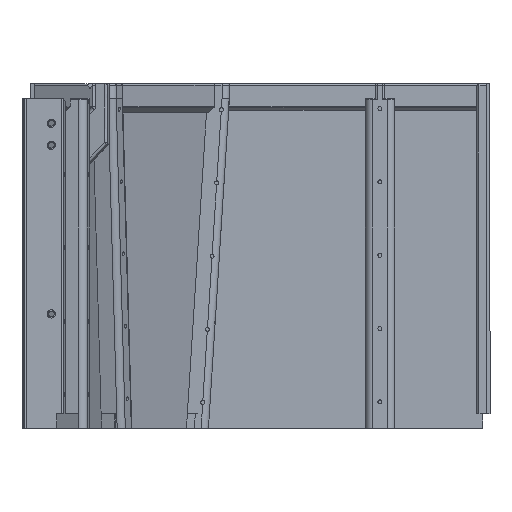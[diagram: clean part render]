
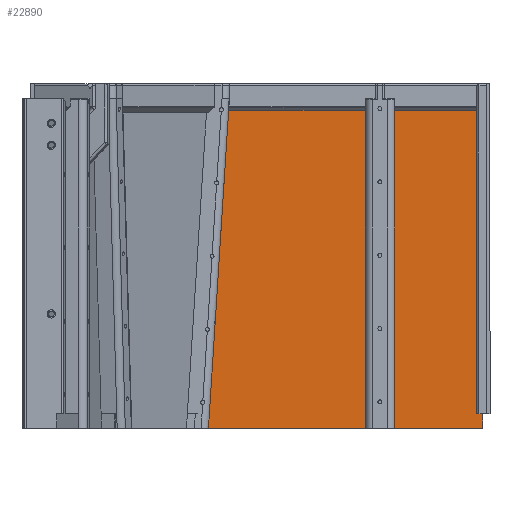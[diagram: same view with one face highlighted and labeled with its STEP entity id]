
A CAD part, front view. The second image highlights one B-rep face of the part: STEP entity #22890.
In plain terms, the highlighted planar face has unit normal (0, -1, 0).
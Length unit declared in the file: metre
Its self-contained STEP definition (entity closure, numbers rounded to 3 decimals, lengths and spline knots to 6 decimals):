
#2142=ORIENTED_EDGE('',*,*,#8636,.T.);
#2143=ORIENTED_EDGE('',*,*,#8762,.F.);
#2144=ORIENTED_EDGE('',*,*,#8763,.T.);
#2145=ORIENTED_EDGE('',*,*,#8562,.F.);
#2146=ORIENTED_EDGE('',*,*,#8714,.T.);
#2147=ORIENTED_EDGE('',*,*,#8764,.T.);
#2148=ORIENTED_EDGE('',*,*,#8765,.T.);
#2149=ORIENTED_EDGE('',*,*,#8425,.F.);
#2150=ORIENTED_EDGE('',*,*,#8716,.T.);
#2151=ORIENTED_EDGE('',*,*,#8536,.T.);
#2152=ORIENTED_EDGE('',*,*,#8766,.T.);
#8425=EDGE_CURVE('',#11774,#11775,#14069,.T.);
#8536=EDGE_CURVE('',#11881,#11880,#14145,.T.);
#8562=EDGE_CURVE('',#11906,#11907,#14157,.T.);
#8636=EDGE_CURVE('',#11922,#11971,#14223,.T.);
#8714=EDGE_CURVE('',#11906,#12026,#14252,.T.);
#8716=EDGE_CURVE('',#11774,#11881,#14254,.T.);
#8762=EDGE_CURVE('',#12052,#11971,#14285,.T.);
#8763=EDGE_CURVE('',#12052,#11907,#14286,.T.);
#8764=EDGE_CURVE('',#12026,#12053,#14287,.T.);
#8765=EDGE_CURVE('',#12053,#11775,#14288,.T.);
#8766=EDGE_CURVE('',#11880,#11922,#14289,.T.);
#11774=VERTEX_POINT('',#33563);
#11775=VERTEX_POINT('',#33565);
#11880=VERTEX_POINT('',#33793);
#11881=VERTEX_POINT('',#33795);
#11906=VERTEX_POINT('',#33847);
#11907=VERTEX_POINT('',#33848);
#11922=VERTEX_POINT('',#33893);
#11971=VERTEX_POINT('',#33998);
#12026=VERTEX_POINT('',#34214);
#12052=VERTEX_POINT('',#34323);
#12053=VERTEX_POINT('',#34326);
#14069=LINE('',#33564,#16248);
#14145=LINE('',#33794,#16324);
#14157=LINE('',#33846,#16336);
#14223=LINE('',#33999,#16402);
#14252=LINE('',#34215,#16431);
#14254=LINE('',#34218,#16433);
#14285=LINE('',#34322,#16464);
#14286=LINE('',#34324,#16465);
#14287=LINE('',#34325,#16466);
#14288=LINE('',#34327,#16467);
#14289=LINE('',#34328,#16468);
#16248=VECTOR('',#26638,1.);
#16324=VECTOR('',#26810,1.);
#16336=VECTOR('',#26852,1.);
#16402=VECTOR('',#26944,1.);
#16431=VECTOR('',#27067,1.);
#16433=VECTOR('',#27071,1.);
#16464=VECTOR('',#27156,1.);
#16465=VECTOR('',#27157,1.);
#16466=VECTOR('',#27158,1.);
#16467=VECTOR('',#27159,1.);
#16468=VECTOR('',#27160,1.);
#18523=EDGE_LOOP('',(#2142,#2143,#2144,#2145,#2146,#2147,#2148,#2149,#2150,#2151,#2152));
#20300=FACE_BOUND('',#18523,.T.);
#22012=PLANE('',#24408);
#22890=ADVANCED_FACE('',(#20300),#22012,.F.);
#24408=AXIS2_PLACEMENT_3D('',#34321,#27154,#27155);
#26638=DIRECTION('',(0.,0.,-1.));
#26810=DIRECTION('',(-0.063,0.,-0.998));
#26852=DIRECTION('',(0.,0.,-1.));
#26944=DIRECTION('',(1.,0.,0.));
#27067=DIRECTION('',(-1.,0.,0.));
#27071=DIRECTION('',(-1.,0.,0.));
#27154=DIRECTION('',(0.,1.,0.));
#27155=DIRECTION('',(1.,0.,0.));
#27156=DIRECTION('',(0.,0.,-1.));
#27157=DIRECTION('',(-1.,0.,0.));
#27158=DIRECTION('',(0.,0.,-1.));
#27159=DIRECTION('',(-1.,0.,0.));
#27160=DIRECTION('',(-0.063,0.,-0.998));
#33563=CARTESIAN_POINT('',(-0.08,0.405,0.417));
#33564=CARTESIAN_POINT('',(-0.08,0.405,0.425002));
#33565=CARTESIAN_POINT('',(-0.08,0.405,0.21));
#33793=CARTESIAN_POINT('',(-0.186296,0.405,0.21));
#33794=CARTESIAN_POINT('',(-0.17258,0.405,0.425951));
#33795=CARTESIAN_POINT('',(-0.173148,0.405,0.417));
#33846=CARTESIAN_POINT('',(-0.004,0.405,0.435002));
#33847=CARTESIAN_POINT('',(-0.004,0.405,0.417));
#33848=CARTESIAN_POINT('',(-0.004,0.405,0.21));
#33893=CARTESIAN_POINT('',(-0.186931,0.405,0.2));
#33998=CARTESIAN_POINT('',(0.,0.405,0.2));
#33999=CARTESIAN_POINT('',(-0.0025,0.405,0.2));
#34214=CARTESIAN_POINT('',(-0.06,0.405,0.417));
#34215=CARTESIAN_POINT('',(-0.0025,0.405,0.417));
#34218=CARTESIAN_POINT('',(-0.0025,0.405,0.417));
#34321=CARTESIAN_POINT('',(-0.0025,0.405,0.612147));
#34322=CARTESIAN_POINT('',(0.,0.405,0.210002));
#34323=CARTESIAN_POINT('',(0.,0.405,0.21));
#34324=CARTESIAN_POINT('',(-0.095225,0.405,0.21));
#34325=CARTESIAN_POINT('',(-0.06,0.405,0.425002));
#34326=CARTESIAN_POINT('',(-0.06,0.405,0.21));
#34327=CARTESIAN_POINT('',(-0.095225,0.405,0.21));
#34328=CARTESIAN_POINT('',(-0.18661,0.405,0.20506));
